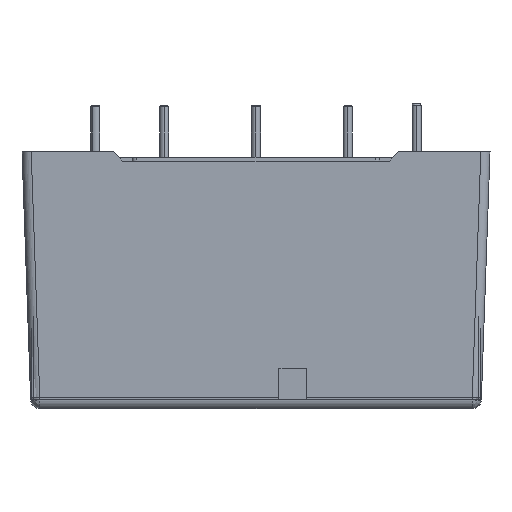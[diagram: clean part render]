
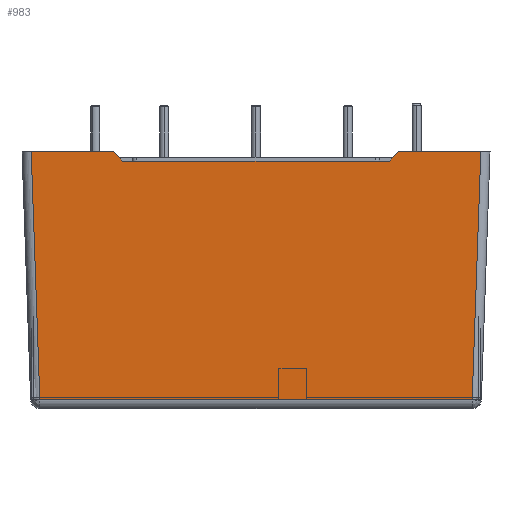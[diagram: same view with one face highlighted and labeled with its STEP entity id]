
A CAD part, left-side view. The second image highlights one B-rep face of the part: STEP entity #983.
In plain terms, the highlighted planar face has unit normal (-0.999, 0, -0.035).
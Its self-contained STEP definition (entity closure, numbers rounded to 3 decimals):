
#32 = EDGE_CURVE ( 'NONE', #3247, #2148, #3076, .T. ) ;
#218 = ORIENTED_EDGE ( 'NONE', *, *, #4231, .T. ) ;
#221 = FACE_OUTER_BOUND ( 'NONE', #2084, .T. ) ;
#264 = DIRECTION ( 'NONE',  ( 0., -1., 0. ) ) ;
#275 = LINE ( 'NONE', #731, #4983 ) ;
#722 = CARTESIAN_POINT ( 'NONE',  ( 0.944, 0., 0.965 ) ) ;
#731 = CARTESIAN_POINT ( 'NONE',  ( 0., 10., 28. ) ) ;
#857 = EDGE_CURVE ( 'NONE', #1608, #5992, #5396, .T. ) ;
#983 = ADVANCED_FACE ( 'NONE', ( #221 ), #5753, .T. ) ;
#1381 = VERTEX_POINT ( 'NONE', #4160 ) ;
#1608 = VERTEX_POINT ( 'NONE', #3847 ) ;
#1738 = VECTOR ( 'NONE', #5261, 1000. ) ;
#1991 = EDGE_CURVE ( 'NONE', #2148, #3937, #3062, .T. ) ;
#2084 = EDGE_LOOP ( 'NONE', ( #2627, #3449, #3232, #7357, #2143, #3532, #218, #4013 ) ) ;
#2143 = ORIENTED_EDGE ( 'NONE', *, *, #1991, .F. ) ;
#2148 = VERTEX_POINT ( 'NONE', #3669 ) ;
#2171 = CARTESIAN_POINT ( 'NONE',  ( 0.035, 40.034, 27. ) ) ;
#2344 = DIRECTION ( 'NONE',  ( 0.025, -0.694, -0.719 ) ) ;
#2566 = CARTESIAN_POINT ( 'NONE',  ( 0.944, 49.057, 0.965 ) ) ;
#2627 = ORIENTED_EDGE ( 'NONE', *, *, #857, .T. ) ;
#2877 = CARTESIAN_POINT ( 'NONE',  ( 0.035, 10.966, 27. ) ) ;
#2880 = VECTOR ( 'NONE', #264, 1000. ) ;
#3062 = LINE ( 'NONE', #6510, #4445 ) ;
#3076 = LINE ( 'NONE', #4989, #2880 ) ;
#3092 = CARTESIAN_POINT ( 'NONE',  ( 0., 50.001, 28. ) ) ;
#3224 = VECTOR ( 'NONE', #6654, 1000. ) ;
#3232 = ORIENTED_EDGE ( 'NONE', *, *, #3596, .T. ) ;
#3247 = VERTEX_POINT ( 'NONE', #3284 ) ;
#3254 = DIRECTION ( 'NONE',  ( -0.035, -0.035, 0.999 ) ) ;
#3284 = CARTESIAN_POINT ( 'NONE',  ( 0., 50.001, 28. ) ) ;
#3449 = ORIENTED_EDGE ( 'NONE', *, *, #4064, .F. ) ;
#3532 = ORIENTED_EDGE ( 'NONE', *, *, #32, .F. ) ;
#3554 = EDGE_CURVE ( 'NONE', #3937, #6773, #3620, .T. ) ;
#3596 = EDGE_CURVE ( 'NONE', #1381, #6773, #275, .T. ) ;
#3620 = LINE ( 'NONE', #4214, #6755 ) ;
#3669 = CARTESIAN_POINT ( 'NONE',  ( 0., 41., 28. ) ) ;
#3826 = VECTOR ( 'NONE', #3254, 1000. ) ;
#3847 = CARTESIAN_POINT ( 'NONE',  ( 0.944, 1.943, 0.965 ) ) ;
#3937 = VERTEX_POINT ( 'NONE', #2171 ) ;
#3995 = DIRECTION ( 'NONE',  ( -0.035, 0., 0.999 ) ) ;
#4013 = ORIENTED_EDGE ( 'NONE', *, *, #6941, .T. ) ;
#4064 = EDGE_CURVE ( 'NONE', #1381, #5992, #6273, .T. ) ;
#4160 = CARTESIAN_POINT ( 'NONE',  ( 0., 10., 28. ) ) ;
#4214 = CARTESIAN_POINT ( 'NONE',  ( 0.035, 25.5, 27. ) ) ;
#4231 = EDGE_CURVE ( 'NONE', #3247, #4860, #6367, .T. ) ;
#4445 = VECTOR ( 'NONE', #2344, 1000. ) ;
#4547 = CARTESIAN_POINT ( 'NONE',  ( 0.977, 0., 0.017 ) ) ;
#4680 = VECTOR ( 'NONE', #6655, 1000. ) ;
#4810 = DIRECTION ( 'NONE',  ( 0., -1., 0. ) ) ;
#4857 = DIRECTION ( 'NONE',  ( 0.025, 0.694, -0.719 ) ) ;
#4860 = VERTEX_POINT ( 'NONE', #2566 ) ;
#4983 = VECTOR ( 'NONE', #4857, 1000. ) ;
#4987 = CARTESIAN_POINT ( 'NONE',  ( 0., 0.999, 28. ) ) ;
#4989 = CARTESIAN_POINT ( 'NONE',  ( 0., 25.5, 28. ) ) ;
#5261 = DIRECTION ( 'NONE',  ( 0., -1., 0. ) ) ;
#5282 = AXIS2_PLACEMENT_3D ( 'NONE', #4547, #7542, #3995 ) ;
#5396 = LINE ( 'NONE', #6796, #3826 ) ;
#5753 = PLANE ( 'NONE',  #5282 ) ;
#5992 = VERTEX_POINT ( 'NONE', #4987 ) ;
#6248 = LINE ( 'NONE', #722, #4680 ) ;
#6273 = LINE ( 'NONE', #7680, #1738 ) ;
#6367 = LINE ( 'NONE', #3092, #3224 ) ;
#6510 = CARTESIAN_POINT ( 'NONE',  ( 0., 41., 28. ) ) ;
#6654 = DIRECTION ( 'NONE',  ( 0.035, -0.035, -0.999 ) ) ;
#6655 = DIRECTION ( 'NONE',  ( 0., -1., 0. ) ) ;
#6755 = VECTOR ( 'NONE', #4810, 1000. ) ;
#6773 = VERTEX_POINT ( 'NONE', #2877 ) ;
#6796 = CARTESIAN_POINT ( 'NONE',  ( 0.944, 1.943, 0.965 ) ) ;
#6941 = EDGE_CURVE ( 'NONE', #4860, #1608, #6248, .T. ) ;
#7357 = ORIENTED_EDGE ( 'NONE', *, *, #3554, .F. ) ;
#7542 = DIRECTION ( 'NONE',  ( -0.999, 0., -0.035 ) ) ;
#7680 = CARTESIAN_POINT ( 'NONE',  ( 0., 25.5, 28. ) ) ;
